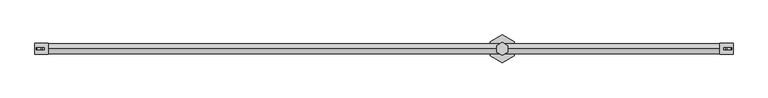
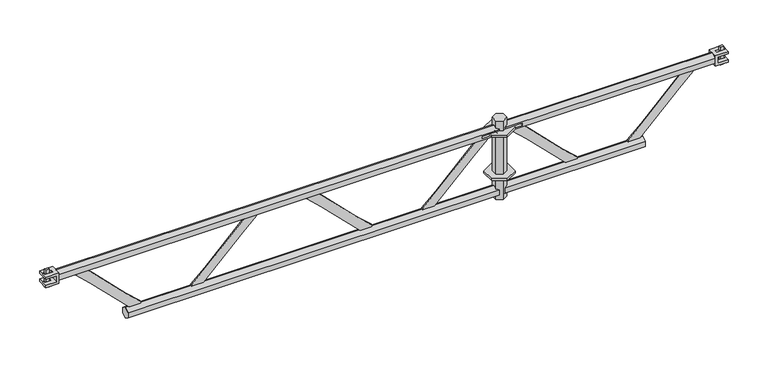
"""IFC4 building model written with IfcOpenShell, lengths in millimetres: proxy geometry, アルバトロスAK1.5スパンはりわく_軽 : アルバトロスAK1.5スパンはりわく_軽."""

from ifc_helpers import new_model, si_unit, point, frame, frame_2d, origin, place, context, project, spatial, polyline, circle_curve, trimmed, segment, composite_curve, outline, extrude, faceted_brep, source, transform, mapped, element, save
from ifc_brep_helpers import plane_surface, revolved_surface, advanced_brep


def generic_models_b0d1cf98(model_context):
    return source(origin(), model_context, "Body", "SolidModel", [
        extrude(outline(polyline([(1845.8993464, 26.5), (1845.8993464, -26.5), (1800.0, -53.0), (1754.1006536, -26.5), (1754.1006536, 26.5), (1800.0, 53.0), (1845.8993464, 26.5)])), frame((0.0, 0.0, -184.0), z_axis=(0.0, 0.0, 1.0), x_axis=(1.0, 0.0, 0.0)), (0.0, 0.0, 1.0), 8.0),
        extrude(outline(polyline([(1845.8993464, 26.5), (1845.8993464, -26.5), (1800.0, -53.0), (1754.1006536, -26.5), (1754.1006536, 26.5), (1800.0, 53.0), (1845.8993464, 26.5)])), frame((0.0, 0.0, -4.0), z_axis=(0.0, 0.0, 1.0), x_axis=(1.0, 0.0, 0.0)), (0.0, 0.0, 1.0), 8.0),
        faceted_brep([(1821.0444173, 12.15, 45.0), (1800.0, 24.3, 45.0), (1778.9555827, 12.15, 45.0), (1778.9555827, -12.15, 45.0), (1800.0, -24.3, 45.0), (1821.0444173, -12.15, 45.0), (1821.0444173, 12.15, -280.0), (1821.0444173, -12.15, -280.0), (1800.0, -24.3, -280.0), (1778.9555827, -12.15, -280.0), (1778.9555827, 12.15, -280.0), (1800.0, 24.3, -280.0), (1821.0444173, 12.15, -264.2851942), (1821.0444173, 0.0, -271.3), (1821.0444173, -12.15, -264.2851942), (1821.0444173, 0.0, -21.35), (1821.0444173, -12.15, -14.3351942), (1821.0444173, -12.15, -235.6148058), (1821.0444173, 0.0, -228.6), (1821.0444173, 12.15, -235.6148058), (1821.0444173, 12.15, -14.3351942), (1821.0444173, -12.15, 14.3351942), (1821.0444173, 0.0, 21.35), (1821.0444173, 12.15, 14.3351942), (1810.0638346, -18.4896424, -260.625), (1810.0638346, -18.4896424, -239.275), (1810.0638346, -18.4896424, -10.675), (1810.0638346, -18.4896424, 10.675), (1778.9555827, -12.15, 14.3351942), (1789.9361654, -18.4896424, 10.675), (1789.9361654, -18.4896424, -10.675), (1778.9555827, -12.15, -14.3351942), (1778.9555827, -12.15, -235.6148058), (1789.9361654, -18.4896424, -239.275), (1789.9361654, -18.4896424, -260.625), (1778.9555827, -12.15, -264.2851942), (1778.9555827, 0.0, -271.3), (1778.9555827, 12.15, -264.2851942), (1778.9555827, 12.15, 14.3351942), (1778.9555827, 0.0, 21.35), (1778.9555827, 12.15, -14.3351942), (1778.9555827, 12.15, -235.6148058), (1778.9555827, 0.0, -228.6), (1778.9555827, 0.0, -21.35), (1789.9361654, 18.4896424, -260.625), (1789.9361654, 18.4896424, -239.275), (1789.9361654, 18.4896424, -10.675), (1789.9361654, 18.4896424, 10.675), (1810.0638346, 18.4896424, 10.675), (1810.0638346, 18.4896424, -10.675), (1810.0638346, 18.4896424, -239.275), (1810.0638346, 18.4896424, -260.625)], [[[0, 1, 2, 3, 4, 5]], [[6, 7, 8, 9, 10, 11]], [[6, 12, 13, 14, 7]], [[15, 16, 17, 18, 19, 20]], [[5, 21, 22, 23, 0]], [[4, 8, 7, 14, 24, 25, 17, 16, 26, 27, 21, 5]], [[3, 28, 29, 30, 31, 32, 33, 34, 35, 9, 8, 4]], [[9, 35, 36, 37, 10]], [[2, 38, 39, 28, 3]], [[40, 41, 42, 32, 31, 43]], [[1, 11, 10, 37, 44, 45, 41, 40, 46, 47, 38, 2]], [[0, 23, 48, 49, 20, 19, 50, 51, 12, 6, 11, 1]], [[30, 29, 27, 26]], [[29, 28, 39, 22, 21, 27]], [[39, 38, 47, 48, 23, 22]], [[47, 46, 49, 48]], [[46, 40, 43, 15, 20, 49]], [[26, 16, 15, 43, 31, 30]], [[45, 44, 51, 50]], [[44, 37, 36, 13, 12, 51]], [[36, 35, 34, 24, 14, 13]], [[34, 33, 25, 24]], [[33, 32, 42, 18, 17, 25]], [[50, 19, 18, 42, 41, 45]]]),
        faceted_brep([(21.0592, -21.5, -12.0), (21.0592, -21.5, -21.5), (71.5, -21.5, -21.5), (71.5, -21.5, 21.5), (21.0592, -21.5, 21.5), (21.0592, -21.5, 12.0), (63.2817611, -21.5, 12.0), (63.2817611, -21.5, -12.0), (21.0592, 21.5, -12.0), (63.2817611, 21.5, -12.0), (63.2817611, 21.5, 12.0), (21.0592, 21.5, 12.0), (21.0592, 21.5, 21.5), (71.5, 21.5, 21.5), (71.5, 21.5, -21.5), (21.0592, 21.5, -21.5), (49.8, 4.25, -12.0), (49.8, -4.25, -12.0), (25.5935462, -4.25, -12.0), (25.5935462, 4.25, -12.0), (25.5935462, 4.25, 12.0), (25.5935462, -4.25, 12.0), (56.8, -4.25, 12.0), (56.8, 4.25, 12.0), (56.8, 4.25, 21.5), (56.8, -4.25, 21.5), (25.5935462, -4.25, 21.5), (25.5935462, 4.25, 21.5), (25.5935462, 4.25, -21.5), (25.5935462, -4.25, -21.5), (49.8, -4.25, -21.5), (49.8, 4.25, -21.5)], [[[0, 1, 2, 3, 4, 5, 6, 7]], [[8, 9, 10, 11, 12, 13, 14, 15]], [[7, 9, 8, 0], [16, 17, 18, 19]], [[5, 11, 10, 6], [20, 21, 22, 23]], [[4, 12, 11, 5]], [[3, 13, 12, 4], [24, 25, 26, 27]], [[1, 15, 14, 2], [28, 29, 30, 31]], [[0, 8, 15, 1]], [[20, 23, 24, 27]], [[23, 22, 25, 24]], [[22, 21, 26, 25]], [[27, 26, 21, 20]], [[28, 31, 16, 19]], [[31, 30, 17, 16]], [[30, 29, 18, 17]], [[19, 18, 29, 28]], [[6, 10, 9, 7]], [[2, 14, 13, 3]]]),
        extrude(outline(polyline([(29.8, -4.0), (29.8, 4.0), (43.6907349, 4.0), (43.6907349, -4.0), (29.8, -4.0)])), frame((0.0, 0.0, -36.75), z_axis=(0.0, 0.0, 1.0), x_axis=(1.0, 0.0, 0.0)), (0.0, 0.0, 1.0), 73.5),
        faceted_brep([(2678.9408, 21.5, -12.0), (2678.9408, 21.5, -21.5), (2628.5, 21.5, -21.5), (2628.5, 21.5, 21.5), (2678.9408, 21.5, 21.5), (2678.9408, 21.5, 12.0), (2636.7182389, 21.5, 12.0), (2636.7182389, 21.5, -12.0), (2678.9408, -21.5, -12.0), (2636.7182389, -21.5, -12.0), (2636.7182389, -21.5, 12.0), (2678.9408, -21.5, 12.0), (2678.9408, -21.5, 21.5), (2628.5, -21.5, 21.5), (2628.5, -21.5, -21.5), (2678.9408, -21.5, -21.5), (2650.2, -4.25, -12.0), (2650.2, 4.25, -12.0), (2674.4064538, 4.25, -12.0), (2674.4064538, -4.25, -12.0), (2674.4064538, -4.25, 12.0), (2674.4064538, 4.25, 12.0), (2643.2, 4.25, 12.0), (2643.2, -4.25, 12.0), (2643.2, -4.25, 21.5), (2643.2, 4.25, 21.5), (2674.4064538, 4.25, 21.5), (2674.4064538, -4.25, 21.5), (2674.4064538, -4.25, -21.5), (2674.4064538, 4.25, -21.5), (2650.2, 4.25, -21.5), (2650.2, -4.25, -21.5)], [[[0, 1, 2, 3, 4, 5, 6, 7]], [[8, 9, 10, 11, 12, 13, 14, 15]], [[7, 9, 8, 0], [16, 17, 18, 19]], [[5, 11, 10, 6], [20, 21, 22, 23]], [[4, 12, 11, 5]], [[3, 13, 12, 4], [24, 25, 26, 27]], [[1, 15, 14, 2], [28, 29, 30, 31]], [[0, 8, 15, 1]], [[20, 23, 24, 27]], [[23, 22, 25, 24]], [[22, 21, 26, 25]], [[27, 26, 21, 20]], [[28, 31, 16, 19]], [[31, 30, 17, 16]], [[30, 29, 18, 17]], [[19, 18, 29, 28]], [[6, 10, 9, 7]], [[2, 14, 13, 3]]]),
        extrude(outline(polyline([(2670.2, 4.0), (2670.2, -4.0), (2656.3092651, -4.0), (2656.3092651, 4.0), (2670.2, 4.0)])), frame((0.0, 0.0, -36.75), z_axis=(0.0, 0.0, 1.0), x_axis=(1.0, 0.0, 0.0)), (0.0, 0.0, 1.0), 73.5),
        extrude(outline(polyline([(-18.4896424, -260.625), (-18.4896424, -239.275), (0.0, -228.6), (18.4896424, -239.275), (18.4896424, -260.625), (0.0, -271.3), (-18.4896424, -260.625)])), frame((1800.0, 0.0, 0.0), z_axis=(1.0, 0.0, 0.0), x_axis=(0.0, 1.0, 0.0)), (0.0, 0.0, 1.0), 557.5499295),
        extrude(outline(polyline([(-18.4896424, -260.675), (-18.4896424, -239.325), (0.0, -228.65), (18.4896424, -239.325), (18.4896424, -260.675), (0.0, -271.35), (-18.4896424, -260.675)])), frame((342.85, 0.0, 0.0), z_axis=(1.0, 0.0, 0.0), x_axis=(0.0, 1.0, 0.0)), (0.0, 0.0, 1.0), 1457.15),
        extrude(outline(composite_curve([segment(trimmed(circle_curve(frame_2d((-645.2601599, -366.0853599)), 804.3367), [point((-27.527903, 149.0499482))], [point((-76.508225, 202.666575))], True, "CARTESIAN"), True, "CONTINUOUS"), segment(polyline([(-76.508225, 202.666575), (-229.89165, 356.05), (-249.95, 356.05), (-249.95, 401.0500018), (-222.1720512, 401.0500018)]), True, "CONTINUOUS"), segment(trimmed(circle_curve(frame_2d((395.5601849, 916.1853349)), 804.3367), [point((-222.1720512, 401.0500018))], [point((-173.19175, 347.4334))], True, "CARTESIAN"), True, "CONTINUOUS"), segment(polyline([(-173.19175, 347.4334), (-19.8083518, 194.0500018), (0.0, 194.0500018), (0.0, 149.0499482), (-27.527903, 149.0499482)]), True, "CONTINUOUS")], self_intersect=False)), frame((0.0, -2.5, 0.0), z_axis=(0.0, 1.0, 0.0), x_axis=(0.0, 0.0, 1.0)), (0.0, 0.0, 1.0), 5.0),
        faceted_brep([(2628.5, 18.6195462, 10.75), (2628.5, 0.0, 21.5), (2628.5, -18.6195462, 10.75), (2628.5, -18.6195462, -10.75), (2628.5, 0.0, -21.5), (2628.5, 18.6195462, -10.75), (1797.4058869, 18.6195462, 10.75), (1797.4058869, 18.6195462, -10.75), (1797.4058869, 0.0, -21.5), (1797.4058869, -18.6195462, -10.75), (1797.4058869, -18.6195462, 10.75), (1797.4058869, 0.0, 21.5), (1877.8, -18.6195462, 4.5), (1838.3, -18.6195462, 4.5), (1838.3, 18.6195462, 4.5), (1877.8, 18.6195462, 4.5), (1838.3, -18.6195462, -4.5), (1877.8, -18.6195462, -4.5), (1877.8, 18.6195462, -4.5), (1838.3, 18.6195462, -4.5)], [[[0, 1, 2, 3, 4, 5]], [[6, 7, 8, 9, 10, 11]], [[12, 13, 14, 15]], [[16, 17, 18, 19]], [[19, 14, 13, 16]], [[5, 7, 6, 0], [14, 19, 18, 15]], [[4, 8, 7, 5]], [[3, 9, 8, 4]], [[2, 10, 9, 3], [12, 17, 16, 13]], [[1, 11, 10, 2]], [[0, 6, 11, 1]], [[15, 18, 17, 12]]]),
        advanced_brep(
        [(1817.5872156, -18.4896424, 10.675), (1817.5872156, -18.4896424, 4.5), (1817.5872156, 18.4896424, 4.5), (1817.5872156, 18.4896424, 10.675), (1817.5872156, 0.0, 21.35), (1817.5872156, 18.4896424, -10.675), (1817.5872156, 18.4896424, -4.5), (1817.5872156, -18.4896424, -4.5), (1817.5872156, -18.4896424, -10.675), (1817.5872156, 0.0, -21.35), (71.5, -18.4896424, -10.675), (71.5, -18.4896424, 10.675), (71.5, 0.0, 21.35), (71.5, 18.4896424, 10.675), (71.5, 18.4896424, -10.675), (71.5, 0.0, -21.35), (1784.7, 18.4896424, 4.5), (1784.7, -18.4896424, 4.5), (1784.7, -18.4896424, -4.5), (1784.7, 18.4896424, -4.5), (1761.7, -18.4896424, 4.5), (1722.2, -18.4896424, 4.5), (1722.2, 18.4896424, 4.5), (1761.7, 18.4896424, 4.5), (1722.2, -18.4896424, -4.5), (1761.7, -18.4896424, -4.5), (1761.7, 18.4896424, -4.5), (1722.2, 18.4896424, -4.5)],
        [
            (0, 1),
            (1, 2),
            (2, 3),
            (3, 4),
            (4, 0),
            (5, 6),
            (6, 7),
            (7, 8),
            (8, 9),
            (9, 5),
            (10, 11),
            (11, 12),
            (12, 13),
            (13, 14),
            (14, 15),
            (15, 10),
            (16, 2),
            (1, 17),
            (17, 16),
            (17, 18, circle_curve(frame((1784.7, -18.4896424, 0.0), z_axis=(0.0, -1.0, 0.0), x_axis=(1.0, 0.0, 0.0)), 4.5)),
            (18, 19),
            (19, 16, circle_curve(frame((1784.7, 18.4896424, 0.0), z_axis=(0.0, 1.0, 0.0), x_axis=(1.0, 0.0, 0.0)), 4.5)),
            (18, 7),
            (6, 19),
            (20, 21),
            (21, 22),
            (22, 23),
            (23, 20),
            (24, 25),
            (25, 26),
            (26, 27),
            (27, 24),
            (23, 26),
            (25, 20),
            (10, 8),
            (0, 11),
            (24, 21),
            (4, 12),
            (3, 13),
            (5, 14),
            (22, 27),
            (9, 15),
        ],
        [
            plane_surface(frame((1817.5872156, -18.4896424, -10.675), z_axis=(1.0, 0.0, 0.0), x_axis=(0.0, 0.0, 1.0))),
            plane_surface(frame((71.5, -18.4896424, -10.675), z_axis=(-1.0, 0.0, 0.0), x_axis=(0.0, 0.0, -1.0))),
            plane_surface(frame((1819.7, 25.03115, 4.5), z_axis=(-2.6609208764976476e-11, 0.0, -1.0), x_axis=(0.0, -1.0, 0.0))),
            revolved_surface(polyline([(1789.2, 18.4896424, 0.0), (1789.2, -18.4896424, 0.0)]), (1784.7, -25.0312, 0.0), (0.0, 1.0, 0.0)),
            plane_surface(frame((1784.7, 25.03115, -4.5), z_axis=(0.0, 0.0, 1.0), x_axis=(0.0, -1.0, 0.0))),
            plane_surface(frame((1761.7, 25.03115, 4.5), z_axis=(0.0, 0.0, -1.0), x_axis=(0.0, -1.0, 0.0))),
            plane_surface(frame((1722.2, 25.03115, -4.5), z_axis=(0.0, 0.0, 1.0), x_axis=(0.0, -1.0, 0.0))),
            plane_surface(frame((1761.7, 25.03115, -4.5), z_axis=(-1.0, 0.0, 0.0), x_axis=(0.0, -1.0, 0.0))),
            plane_surface(frame((1817.5872156, -18.4896424, -10.675), z_axis=(0.0, -1.0, 0.0), x_axis=(-1.0, 0.0, 0.0))),
            plane_surface(frame((1817.5872156, -18.4896424, 10.675), z_axis=(0.0, -0.5000000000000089, 0.8660254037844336), x_axis=(-1.0, 0.0, 0.0))),
            plane_surface(frame((1817.5872156, 0.0, 21.35), z_axis=(0.0, 0.4999999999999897, 0.8660254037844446), x_axis=(-1.0, 0.0, 0.0))),
            plane_surface(frame((1817.5872156, 18.4896424, 10.675), z_axis=(0.0, 1.0, 0.0), x_axis=(-1.0, 0.0, 0.0))),
            plane_surface(frame((1817.5872156, 18.4896424, -10.675), z_axis=(0.0, 0.5000000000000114, -0.8660254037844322), x_axis=(-1.0, 0.0, 0.0))),
            plane_surface(frame((1817.5872156, 0.0, -21.35), z_axis=(0.0, -0.4999999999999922, -0.8660254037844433), x_axis=(-1.0, 0.0, 0.0))),
            plane_surface(frame((1722.2, 25.03115, 4.5), z_axis=(1.0, 0.0, 0.0), x_axis=(0.0, -1.0, 0.0))),
        ],
        [
            (0, [[1, 2, 3, 4, 5]]),
            (0, [[6, 7, 8, 9, 10]]),
            (1, [[11, 12, 13, 14, 15, 16]]),
            (2, [[17, -2, 18, 19]]),
            (3, [[20, 21, 22, -19]]),
            (4, [[23, -7, 24, -21]]),
            (5, [[25, 26, 27, 28]]),
            (6, [[29, 30, 31, 32]]),
            (7, [[33, -30, 34, -28]]),
            (8, [[35, -8, -23, -20, -18, -1, 36, -11], [-34, -29, 37, -25]]),
            (9, [[38, -12, -36, -5]]),
            (10, [[39, -13, -38, -4]]),
            (11, [[-39, -3, -17, -22, -24, -6, 40, -14], [41, -31, -33, -27]]),
            (12, [[42, -15, -40, -10]]),
            (13, [[-35, -16, -42, -9]]),
            (14, [[-41, -26, -37, -32]]),
        ],
    ),
        extrude(outline(composite_curve([segment(polyline([(-27.5279201, 851.3499813), (-1.71e-05, 851.3499813), (-1.71e-05, 806.3499278), (-19.8083689, 806.3499278), (-173.1917671, 652.9665296)]), True, "CONTINUOUS"), segment(trimmed(circle_curve(frame_2d((395.5601678, 84.2145946)), 804.3367), [point((-173.1917671, 652.9665296))], [point((-222.1720683, 599.3499278))], True, "CARTESIAN"), True, "CONTINUOUS"), segment(polyline([(-222.1720683, 599.3499278), (-249.9500171, 599.3499278), (-249.9500171, 644.3499295), (-229.8916671, 644.3499295), (-76.5082421, 797.7333545)]), True, "CONTINUOUS"), segment(trimmed(circle_curve(frame_2d((-645.260177, 1366.4852894)), 804.3367), [point((-76.5082421, 797.7333545))], [point((-27.5279201, 851.3499813))], True, "CARTESIAN"), True, "CONTINUOUS")], self_intersect=False)), frame((0.0, -2.5, 0.0), z_axis=(0.0, 1.0, 0.0), x_axis=(0.0, 0.0, 1.0)), (0.0, 0.0, 1.0), 5.0),
        extrude(outline(composite_curve([segment(trimmed(circle_curve(frame_2d((-645.2601623, 533.9146772)), 804.3367), [point((-27.5279054, 1049.0499853))], [point((-76.5082274, 1102.6666121))], True, "CARTESIAN"), True, "CONTINUOUS"), segment(polyline([(-76.5082274, 1102.6666121), (-229.8916524, 1256.0500371), (-249.9500024, 1256.0500371), (-249.9500024, 1301.0500389), (-222.1720536, 1301.0500389)]), True, "CONTINUOUS"), segment(trimmed(circle_curve(frame_2d((395.5601825, 1816.185372)), 804.3367), [point((-222.1720536, 1301.0500389))], [point((-173.1917524, 1247.4334371))], True, "CARTESIAN"), True, "CONTINUOUS"), segment(polyline([(-173.1917524, 1247.4334371), (-19.8083542, 1094.0500389), (-2.4e-06, 1094.0500389), (-2.4e-06, 1049.0499853), (-27.5279054, 1049.0499853)]), True, "CONTINUOUS")], self_intersect=False)), frame((0.0, -2.5, 0.0), z_axis=(0.0, 1.0, 0.0), x_axis=(0.0, 0.0, 1.0)), (0.0, 0.0, 1.0), 5.0),
        extrude(outline(composite_curve([segment(polyline([(-27.5279225, 1751.1500184), (-1.95e-05, 1751.1500184), (-1.95e-05, 1706.1499649), (-19.8083713, 1706.1499649), (-173.1917695, 1552.7665667)]), True, "CONTINUOUS"), segment(trimmed(circle_curve(frame_2d((395.5601654, 984.0146317)), 804.3367), [point((-173.1917695, 1552.7665667))], [point((-222.1720707, 1499.1499649))], True, "CARTESIAN"), True, "CONTINUOUS"), segment(polyline([(-222.1720707, 1499.1499649), (-249.9500195, 1499.1499649), (-249.9500195, 1544.1499666), (-229.8916695, 1544.1499666), (-76.5082445, 1697.5333916)]), True, "CONTINUOUS"), segment(trimmed(circle_curve(frame_2d((-645.2601794, 2266.2853265)), 804.3367), [point((-76.5082445, 1697.5333916))], [point((-27.5279225, 1751.1500184))], True, "CARTESIAN"), True, "CONTINUOUS")], self_intersect=False)), frame((0.0, -2.5, 0.0), z_axis=(0.0, 1.0, 0.0), x_axis=(0.0, 0.0, 1.0)), (0.0, 0.0, 1.0), 5.0),
        extrude(outline(composite_curve([segment(polyline([(-27.5279201, 2551.3499813), (-1.71e-05, 2551.3499813), (-1.71e-05, 2506.3499278), (-19.8083689, 2506.3499278), (-173.1917671, 2352.9665296)]), True, "CONTINUOUS"), segment(trimmed(circle_curve(frame_2d((395.5601678, 1784.2145946)), 804.3367), [point((-173.1917671, 2352.9665296))], [point((-222.1720683, 2299.3499278))], True, "CARTESIAN"), True, "CONTINUOUS"), segment(polyline([(-222.1720683, 2299.3499278), (-249.9500171, 2299.3499278), (-249.9500171, 2344.3499295), (-229.8916671, 2344.3499295), (-76.5082421, 2497.7333545)]), True, "CONTINUOUS"), segment(trimmed(circle_curve(frame_2d((-645.260177, 3066.4852894)), 804.3367), [point((-76.5082421, 2497.7333545))], [point((-27.5279201, 2551.3499813))], True, "CARTESIAN"), True, "CONTINUOUS")], self_intersect=False)), frame((0.0, -2.5, 0.0), z_axis=(0.0, 1.0, 0.0), x_axis=(0.0, 0.0, 1.0)), (0.0, 0.0, 1.0), 5.0),
        extrude(outline(composite_curve([segment(trimmed(circle_curve(frame_2d((-645.2601599, 1333.7146401)), 804.3367), [point((-27.527903, 1848.8499482))], [point((-76.508225, 1902.466575))], True, "CARTESIAN"), True, "CONTINUOUS"), segment(polyline([(-76.508225, 1902.466575), (-229.89165, 2055.85), (-249.95, 2055.85), (-249.95, 2100.8500018), (-222.1720512, 2100.8500018)]), True, "CONTINUOUS"), segment(trimmed(circle_curve(frame_2d((395.5601849, 2615.9853349)), 804.3367), [point((-222.1720512, 2100.8500018))], [point((-173.19175, 2047.2334))], True, "CARTESIAN"), True, "CONTINUOUS"), segment(polyline([(-173.19175, 2047.2334), (-19.8083518, 1893.8500018), (0.0, 1893.8500018), (0.0, 1848.8499482), (-27.527903, 1848.8499482)]), True, "CONTINUOUS")], self_intersect=False)), frame((0.0, -2.5, 0.0), z_axis=(0.0, 1.0, 0.0), x_axis=(0.0, 0.0, 1.0)), (0.0, 0.0, 1.0), 5.0),
    ])


if __name__ == "__main__":
    model = new_model("IFC4")
    model_context = context("Model", 3, world=origin())
    ifc_project = project(units=[si_unit("LENGTHUNIT", "METRE", prefix="MILLI")], contexts=[model_context])
    site = spatial("IfcSite", under=ifc_project)
    building = spatial("IfcBuilding", under=site)
    placement = place(None, origin())
    generic_models_shape = generic_models_b0d1cf98(model_context)
    element("IfcBuildingElementProxy", 1, Name="アルバトロスAK1.5スパンはりわく_軽 : アルバトロスAK1.5スパンはりわく_軽", ObjectType="アルバトロスAK1.5スパンはりわく_軽 : アルバトロスAK1.5スパンはりわく_軽", at=placement, inside=building, context=model_context, shape_type="MappedRepresentation", body=[
        mapped(generic_models_shape, transform((0.0, 0.0, 0.0), x_axis=(1.0, 0.0, 0.0), y_axis=(0.0, 1.0, 0.0), z_axis=(0.0, 0.0, 1.0))),
    ])
    save(model, "model.ifc")
